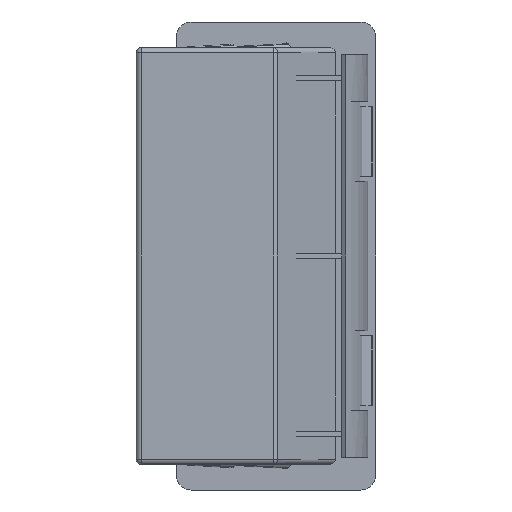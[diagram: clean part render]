
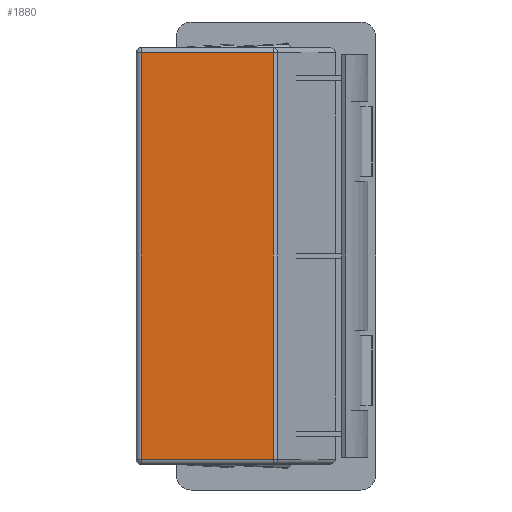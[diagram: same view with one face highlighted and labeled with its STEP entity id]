
A CAD part, front view. The second image highlights one B-rep face of the part: STEP entity #1880.
In plain terms, the highlighted planar face has unit normal (0, -1, 0).
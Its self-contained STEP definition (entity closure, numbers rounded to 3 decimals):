
#4 = LINE ( 'NONE', #642, #878 ) ;
#100 = EDGE_CURVE ( 'NONE', #1575, #3087, #4, .T. ) ;
#117 = VERTEX_POINT ( 'NONE', #2009 ) ;
#188 = CARTESIAN_POINT ( 'NONE',  ( -27., -18.6, 40.75 ) ) ;
#249 = PLANE ( 'NONE',  #2973 ) ;
#487 = VERTEX_POINT ( 'NONE', #2872 ) ;
#555 = EDGE_CURVE ( 'NONE', #117, #487, #1508, .T. ) ;
#585 = DIRECTION ( 'NONE',  ( 0., 1., 0. ) ) ;
#620 = EDGE_CURVE ( 'NONE', #3087, #117, #3332, .T. ) ;
#642 = CARTESIAN_POINT ( 'NONE',  ( -28., -18.6, 40.75 ) ) ;
#754 = VECTOR ( 'NONE', #2071, 1000. ) ;
#878 = VECTOR ( 'NONE', #1299, 1000. ) ;
#1039 = DIRECTION ( 'NONE',  ( 0., 0., -1. ) ) ;
#1161 = VECTOR ( 'NONE', #1039, 1000. ) ;
#1269 = ORIENTED_EDGE ( 'NONE', *, *, #620, .T. ) ;
#1299 = DIRECTION ( 'NONE',  ( -1., 0., 0. ) ) ;
#1400 = ORIENTED_EDGE ( 'NONE', *, *, #100, .T. ) ;
#1508 = LINE ( 'NONE', #2345, #754 ) ;
#1545 = CARTESIAN_POINT ( 'NONE',  ( 0., -18.6, -41.75 ) ) ;
#1570 = EDGE_CURVE ( 'NONE', #487, #1575, #3958, .T. ) ;
#1575 = VERTEX_POINT ( 'NONE', #3345 ) ;
#1880 = ADVANCED_FACE ( 'NONE', ( #2207 ), #249, .F. ) ;
#1996 = DIRECTION ( 'NONE',  ( 0., 0., 1. ) ) ;
#2009 = CARTESIAN_POINT ( 'NONE',  ( -27., -18.6, -40.75 ) ) ;
#2071 = DIRECTION ( 'NONE',  ( 1., 0., 0. ) ) ;
#2207 = FACE_OUTER_BOUND ( 'NONE', #2317, .T. ) ;
#2317 = EDGE_LOOP ( 'NONE', ( #3757, #2805, #1400, #1269 ) ) ;
#2345 = CARTESIAN_POINT ( 'NONE',  ( 0., -18.6, -40.75 ) ) ;
#2796 = CARTESIAN_POINT ( 'NONE',  ( -27., -18.6, -41.75 ) ) ;
#2805 = ORIENTED_EDGE ( 'NONE', *, *, #1570, .T. ) ;
#2835 = DIRECTION ( 'NONE',  ( 0., 0., 1. ) ) ;
#2872 = CARTESIAN_POINT ( 'NONE',  ( -0.521, -18.6, -40.75 ) ) ;
#2970 = CARTESIAN_POINT ( 'NONE',  ( -0.521, -18.6, -41.75 ) ) ;
#2973 = AXIS2_PLACEMENT_3D ( 'NONE', #1545, #585, #2835 ) ;
#3087 = VERTEX_POINT ( 'NONE', #188 ) ;
#3332 = LINE ( 'NONE', #2796, #1161 ) ;
#3345 = CARTESIAN_POINT ( 'NONE',  ( -0.521, -18.6, 40.75 ) ) ;
#3492 = VECTOR ( 'NONE', #1996, 1000. ) ;
#3757 = ORIENTED_EDGE ( 'NONE', *, *, #555, .T. ) ;
#3958 = LINE ( 'NONE', #2970, #3492 ) ;
